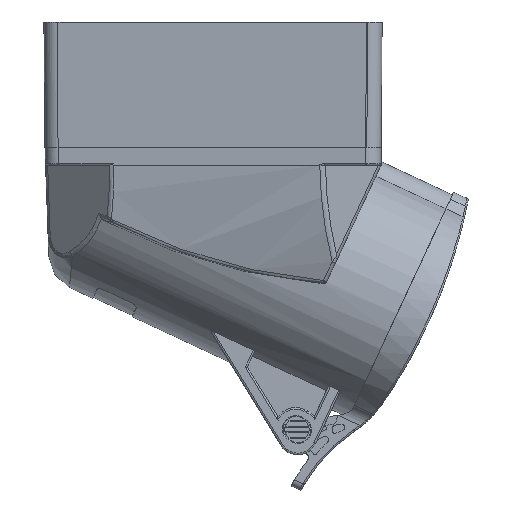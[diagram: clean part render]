
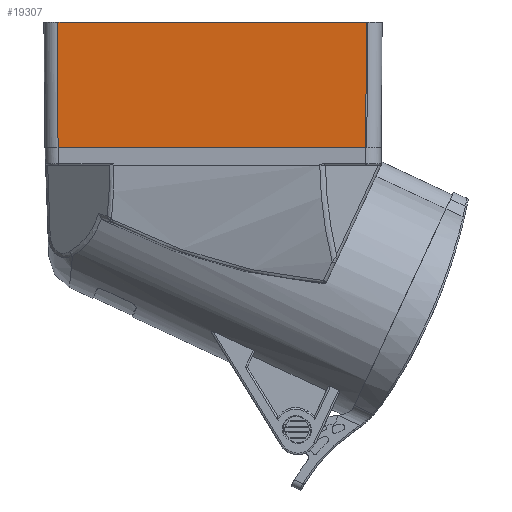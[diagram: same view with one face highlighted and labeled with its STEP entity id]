
A CAD part, left-side view. The second image highlights one B-rep face of the part: STEP entity #19307.
In plain terms, the highlighted planar face has unit normal (-0.996, 0.084, -0.009).
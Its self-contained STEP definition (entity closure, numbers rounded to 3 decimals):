
#54 = DIRECTION ( 'NONE',  ( -0.084, -0.996, 0. ) ) ;
#2177 = CARTESIAN_POINT ( 'NONE',  ( 3559.154, 4094.76, 178.262 ) ) ;
#2302 = VERTEX_POINT ( 'NONE', #14330 ) ;
#2542 = LINE ( 'NONE', #12560, #6693 ) ;
#2772 = ORIENTED_EDGE ( 'NONE', *, *, #21324, .T. ) ;
#3505 = CARTESIAN_POINT ( 'NONE',  ( 3566.731, 4181.062, 142.93 ) ) ;
#5120 = EDGE_CURVE ( 'NONE', #11085, #2302, #5289, .T. ) ;
#5289 = LINE ( 'NONE', #3505, #6351 ) ;
#5905 = EDGE_CURVE ( 'NONE', #11085, #17254, #2542, .T. ) ;
#5906 = DIRECTION ( 'NONE',  ( -0.009, 0., 1. ) ) ;
#6351 = VECTOR ( 'NONE', #19255, 1000. ) ;
#6693 = VECTOR ( 'NONE', #14222, 1000. ) ;
#6770 = EDGE_CURVE ( 'NONE', #14026, #17254, #15733, .T. ) ;
#7418 = CARTESIAN_POINT ( 'NONE',  ( 3566.448, 4181.371, 178.262 ) ) ;
#11085 = VERTEX_POINT ( 'NONE', #7418 ) ;
#12560 = CARTESIAN_POINT ( 'NONE',  ( 3563.027, 4140.756, 178.262 ) ) ;
#13085 = ORIENTED_EDGE ( 'NONE', *, *, #5120, .T. ) ;
#13331 = DIRECTION ( 'NONE',  ( -0.009, -0.009, 1. ) ) ;
#13357 = VECTOR ( 'NONE', #13331, 1000. ) ;
#13551 = LINE ( 'NONE', #17851, #21746 ) ;
#14026 = VERTEX_POINT ( 'NONE', #23208 ) ;
#14222 = DIRECTION ( 'NONE',  ( -0.084, -0.996, 0. ) ) ;
#14330 = CARTESIAN_POINT ( 'NONE',  ( 3566.728, 4181.065, 143.262 ) ) ;
#15733 = LINE ( 'NONE', #19309, #13357 ) ;
#17187 = CARTESIAN_POINT ( 'NONE',  ( 3563.332, 4140.73, 143.255 ) ) ;
#17254 = VERTEX_POINT ( 'NONE', #2177 ) ;
#17851 = CARTESIAN_POINT ( 'NONE',  ( 3559.071, 4090.133, 143.262 ) ) ;
#17878 = EDGE_LOOP ( 'NONE', ( #13085, #2772, #23137, #22057 ) ) ;
#19100 = FACE_OUTER_BOUND ( 'NONE', #17878, .T. ) ;
#19255 = DIRECTION ( 'NONE',  ( 0.008, -0.009, -1. ) ) ;
#19307 = ADVANCED_FACE ( 'NONE', ( #19100 ), #23327, .T. ) ;
#19309 = CARTESIAN_POINT ( 'NONE',  ( 3559.49, 4095.069, 142.82 ) ) ;
#21324 = EDGE_CURVE ( 'NONE', #2302, #14026, #13551, .T. ) ;
#21746 = VECTOR ( 'NONE', #54, 1000. ) ;
#22057 = ORIENTED_EDGE ( 'NONE', *, *, #5905, .F. ) ;
#23137 = ORIENTED_EDGE ( 'NONE', *, *, #6770, .T. ) ;
#23208 = CARTESIAN_POINT ( 'NONE',  ( 3559.486, 4095.065, 143.262 ) ) ;
#23327 = PLANE ( 'NONE',  #24554 ) ;
#24554 = AXIS2_PLACEMENT_3D ( 'NONE', #17187, #24997, #5906 ) ;
#24997 = DIRECTION ( 'NONE',  ( -0.996, 0.084, -0.009 ) ) ;
